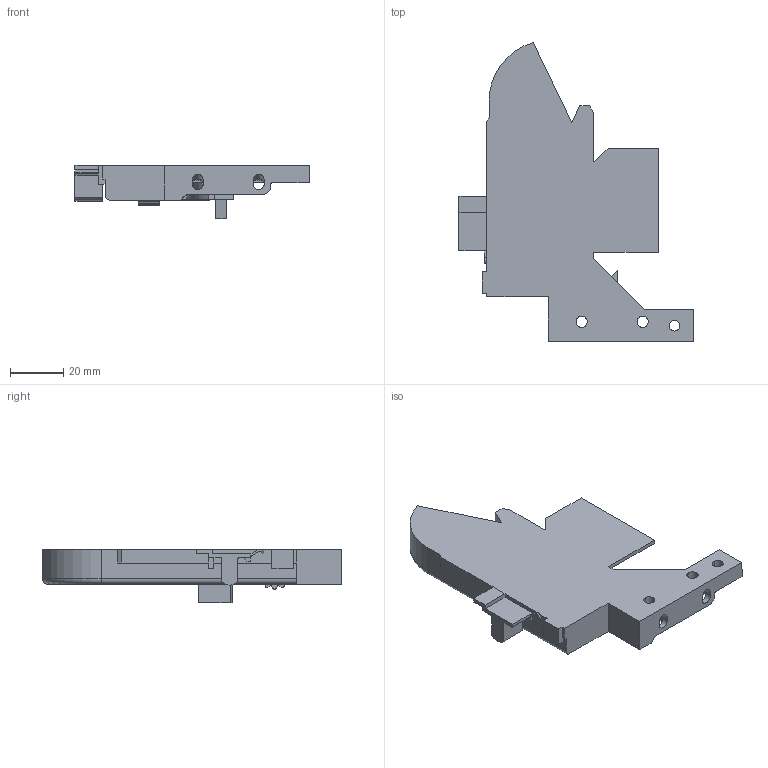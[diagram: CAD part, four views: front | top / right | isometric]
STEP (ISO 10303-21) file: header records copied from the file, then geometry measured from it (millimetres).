
FILE_DESCRIPTION (( 'STEP AP214' ), '1' );
FILE_NAME ('IMOS_Dynapro_Rastkupplung_Rechts.step', '2012-01-31T10:32:58', ( 'Grass' ), ( '' ), 'SwSTEP 2.0', 'SolidWorks 2011', '' );
FILE_SCHEMA (( 'AUTOMOTIVE_DESIGN' ));
Length unit declared in the file: millimetre
Products named in the file (1): IMOS_Dynapro_Rastkupplung_Rechts
Bounding box: 88.25 x 112.68 x 20.2 mm (x, y, z)
Volume: 52822.8 mm3; surface area: 16894 mm2
Topology: 1 solids, 1 shells, 176 faces, 505 edges, 330 vertices
Faces by surface type: plane 117, cylinder 52, cone 6, torus 1
Entity records: 5843 total; most frequent: CARTESIAN_POINT 1300, ORIENTED_EDGE 1010, DIRECTION 866, EDGE_CURVE 505, VECTOR 362, LINE 362, VERTEX_POINT 330, AXIS2_PLACEMENT_3D 252
